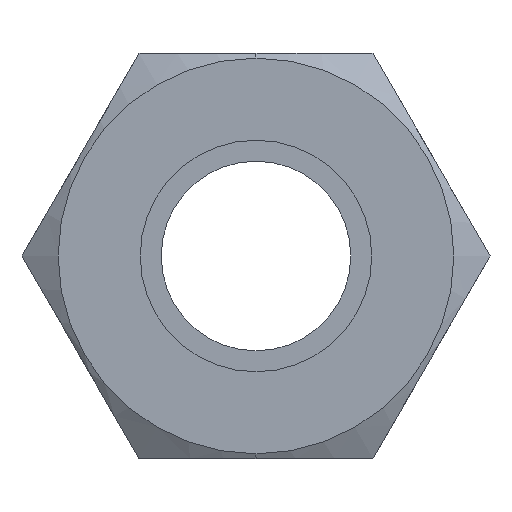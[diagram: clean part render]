
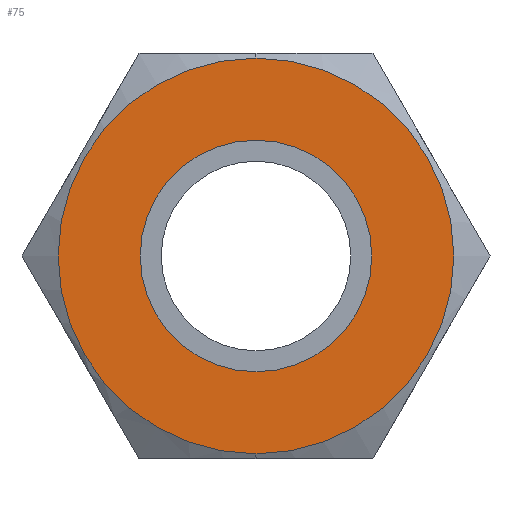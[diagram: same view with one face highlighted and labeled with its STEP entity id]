
A CAD part, left-side view. The second image highlights one B-rep face of the part: STEP entity #75.
In plain terms, the highlighted planar face has unit normal (-1, 0, 0).
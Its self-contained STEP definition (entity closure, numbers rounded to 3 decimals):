
#75 = ADVANCED_FACE ( 'NONE', ( #832, #831 ), #830, .T. ) ;
#77 = EDGE_LOOP ( 'NONE', ( #78, #80 ) ) ;
#78 = ORIENTED_EDGE ( 'NONE', *, *, #79, .F. ) ;
#79 = EDGE_CURVE ( 'NONE', #645, #642, #1008, .T. ) ;
#80 = ORIENTED_EDGE ( 'NONE', *, *, #644, .F. ) ;
#81 = EDGE_LOOP ( 'NONE', ( #236, #237 ) ) ;
#236 = ORIENTED_EDGE ( 'NONE', *, *, #695, .T. ) ;
#237 = ORIENTED_EDGE ( 'NONE', *, *, #238, .T. ) ;
#238 = EDGE_CURVE ( 'NONE', #852, #696, #1149, .T. ) ;
#642 = VERTEX_POINT ( 'NONE', #1990 ) ;
#644 = EDGE_CURVE ( 'NONE', #642, #645, #1983, .T. ) ;
#645 = VERTEX_POINT ( 'NONE', #1978 ) ;
#695 = EDGE_CURVE ( 'NONE', #696, #852, #1998, .T. ) ;
#696 = VERTEX_POINT ( 'NONE', #1993 ) ;
#826 = DIRECTION ( 'NONE',  ( 0., 0., 1. ) ) ;
#827 = DIRECTION ( 'NONE',  ( -1., 0., 0. ) ) ;
#828 = AXIS2_PLACEMENT_3D ( 'NONE', #829, #827, #826 ) ;
#829 = CARTESIAN_POINT ( 'NONE',  ( -22.08, 12.834, 0. ) ) ;
#830 = PLANE ( 'NONE',  #828 ) ;
#831 = FACE_OUTER_BOUND ( 'NONE', #81, .T. ) ;
#832 = FACE_BOUND ( 'NONE', #77, .T. ) ;
#852 = VERTEX_POINT ( 'NONE', #2128 ) ;
#997 = DIRECTION ( 'NONE',  ( 0., 0., 1. ) ) ;
#998 = DIRECTION ( 'NONE',  ( -1., 0., 0. ) ) ;
#999 = AXIS2_PLACEMENT_3D ( 'NONE', #1010, #998, #997 ) ;
#1008 = CIRCLE ( 'NONE', #999, 6.35 ) ;
#1010 = CARTESIAN_POINT ( 'NONE',  ( -22.08, 0., 0. ) ) ;
#1145 = DIRECTION ( 'NONE',  ( 0., 0., 1. ) ) ;
#1146 = DIRECTION ( 'NONE',  ( -1., 0., 0. ) ) ;
#1147 = CARTESIAN_POINT ( 'NONE',  ( -22.08, 0., 0. ) ) ;
#1148 = AXIS2_PLACEMENT_3D ( 'NONE', #1147, #1146, #1145 ) ;
#1149 = CIRCLE ( 'NONE', #1148, 10.85 ) ;
#1978 = CARTESIAN_POINT ( 'NONE',  ( -22.08, 0., 6.35 ) ) ;
#1979 = DIRECTION ( 'NONE',  ( 0., 0., 1. ) ) ;
#1980 = DIRECTION ( 'NONE',  ( -1., 0., 0. ) ) ;
#1981 = CARTESIAN_POINT ( 'NONE',  ( -22.08, 0., 0. ) ) ;
#1982 = AXIS2_PLACEMENT_3D ( 'NONE', #1981, #1980, #1979 ) ;
#1983 = CIRCLE ( 'NONE', #1982, 6.35 ) ;
#1990 = CARTESIAN_POINT ( 'NONE',  ( -22.08, 0., -6.35 ) ) ;
#1993 = CARTESIAN_POINT ( 'NONE',  ( -22.08, 0., 10.85 ) ) ;
#1994 = DIRECTION ( 'NONE',  ( 0., 0., 1. ) ) ;
#1995 = DIRECTION ( 'NONE',  ( -1., 0., 0. ) ) ;
#1996 = CARTESIAN_POINT ( 'NONE',  ( -22.08, 0., 0. ) ) ;
#1997 = AXIS2_PLACEMENT_3D ( 'NONE', #1996, #1995, #1994 ) ;
#1998 = CIRCLE ( 'NONE', #1997, 10.85 ) ;
#2128 = CARTESIAN_POINT ( 'NONE',  ( -22.08, 0., -10.85 ) ) ;
